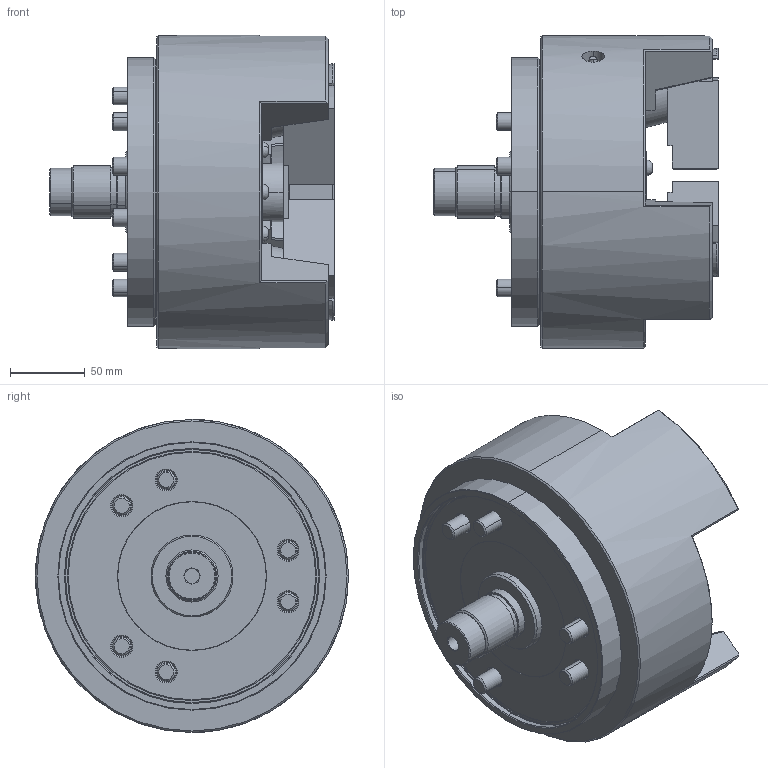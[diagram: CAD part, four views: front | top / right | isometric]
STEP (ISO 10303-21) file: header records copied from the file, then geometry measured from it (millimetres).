
FILE_DESCRIPTION (( 'STEP AP214' ), '1' );
FILE_NAME ('PU208_CL.STEP', '2019-10-18T09:06:45', ( '' ), ( '' ), 'SwSTEP 2.0', 'SolidWorks 2017', '' );
FILE_SCHEMA (( 'AUTOMOTIVE_DESIGN' ));
Length unit declared in the file: millimetre
Products named in the file (4): 結合; 0030112030; 61P332356; PU208_CL
Assembly tree (7 placements, depth 2):
  PU208_CL
    61P332356  x3
    0030112030  x3
    結合
Bounding box: 191 x 210 x 210 mm (x, y, z)
Volume: 3323977.4 mm3; surface area: 278899.7 mm2
Topology: 7 solids, 7 shells, 1106 faces, 2752 edges, 1727 vertices
Faces by surface type: plane 527, cone 211, cylinder 173, bspline 156, torus 39
Entity records: 36139 total; most frequent: CARTESIAN_POINT 13143, ORIENTED_EDGE 4996, DIRECTION 4271, EDGE_CURVE 2498, VERTEX_POINT 1589, AXIS2_PLACEMENT_3D 1460, VECTOR 1351, LINE 1351
